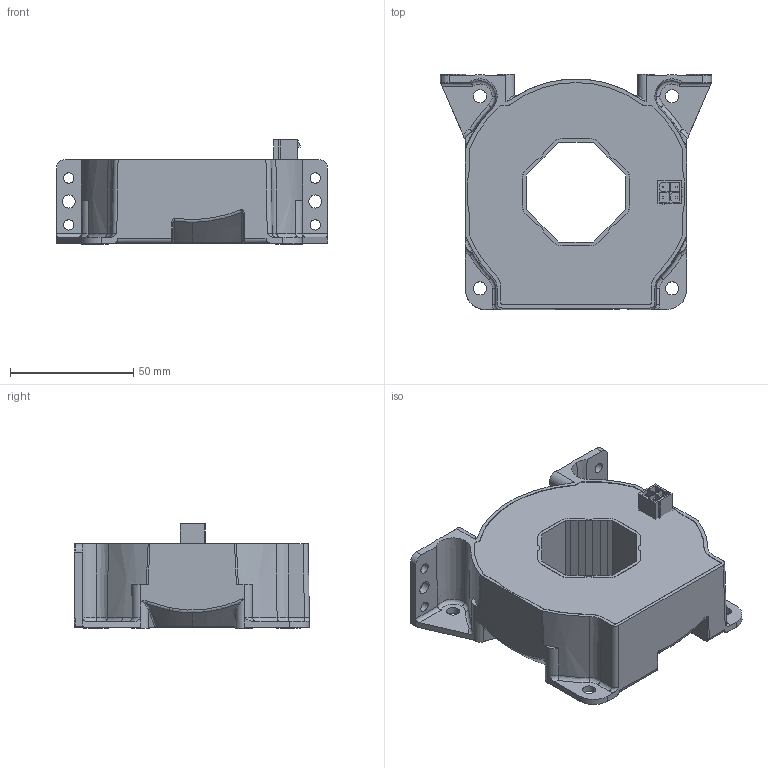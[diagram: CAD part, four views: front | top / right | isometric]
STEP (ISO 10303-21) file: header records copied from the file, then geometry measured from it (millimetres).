
FILE_DESCRIPTION(('CoCreate Modeling STEP Export'),'2;1');
FILE_NAME('LF 1005-S_SP22_Blackbox.stp','2009-05-20T14:29:22',(''),(''),'CoCreate Modeling STEP processor for AP214 (Solid Model)','CoCreate Modeling 16.00A 16-Aug-2008 (C) Parametric Technology GmbH','');
FILE_SCHEMA(('AUTOMOTIVE_DESIGN { 1 0 10303 214 1 1 1 1 }'));
Length unit declared in the file: millimetre
Products named in the file (3): Boitier_blackbox; Minifit; LF1005-S_SP22_Blackbox
Assembly tree (2 placements, depth 2):
  LF1005-S_SP22_Blackbox
    Minifit
    Boitier_blackbox
Bounding box: 110 x 95.39 x 42.3 mm (x, y, z)
Volume: 203008.1 mm3; surface area: 37891.8 mm2
Topology: 2 solids, 2 shells, 1192 faces, 3179 edges, 2074 vertices
Faces by surface type: plane 839, cylinder 179, bspline 89, cone 43, extrusion 25, torus 17
Entity records: 53842 total; most frequent: CARTESIAN_POINT 25027, ORIENTED_EDGE 6350, DIRECTION 5087, EDGE_CURVE 3175, VECTOR 2411, LINE 2386, VERTEX_POINT 2074, AXIS2_PLACEMENT_3D 1338
